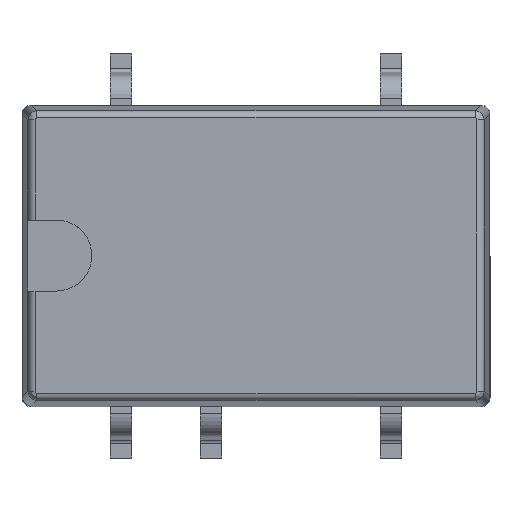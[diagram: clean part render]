
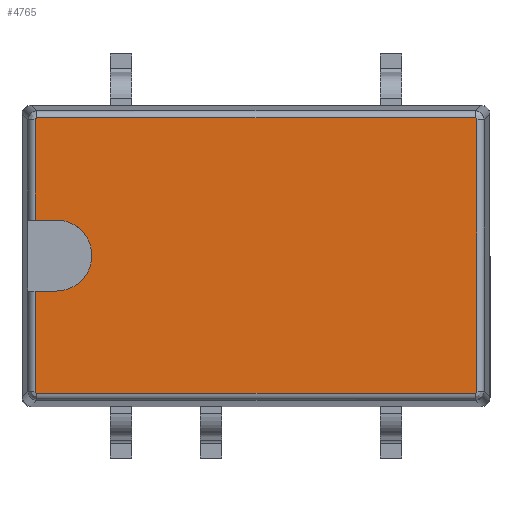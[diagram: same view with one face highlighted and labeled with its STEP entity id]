
A CAD part, top view. The second image highlights one B-rep face of the part: STEP entity #4765.
In plain terms, the highlighted planar face has unit normal (0, 0, 1) as drawn and (0, 1, 0) by its records, which use the part's own axes.
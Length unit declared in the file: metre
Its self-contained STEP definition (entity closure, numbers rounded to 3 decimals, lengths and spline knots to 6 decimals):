
#184 = CARTESIAN_POINT ( 'NONE',  ( -0.006181, 0.00445, 0.003882 ) ) ;
#333 = EDGE_CURVE ( 'NONE', #6880, #6842, #6341, .T. ) ;
#377 = CARTESIAN_POINT ( 'NONE',  ( -0.006231, 0.00445, 0. ) ) ;
#389 = VERTEX_POINT ( 'NONE', #4341 ) ;
#474 = LINE ( 'NONE', #5031, #4975 ) ;
#485 = EDGE_CURVE ( 'NONE', #389, #1462, #2657, .T. ) ;
#563 = EDGE_CURVE ( 'NONE', #5188, #389, #3923, .T. ) ;
#578 = EDGE_CURVE ( 'NONE', #5291, #3061, #6038, .T. ) ;
#677 = EDGE_CURVE ( 'NONE', #1285, #2492, #4439, .T. ) ;
#745 = CIRCLE ( 'NONE', #5731, 0.001 ) ;
#803 = ORIENTED_EDGE ( 'NONE', *, *, #485, .T. ) ;
#866 = CARTESIAN_POINT ( 'NONE',  ( 0.006181, 0.00445, -0.003882 ) ) ;
#995 = ORIENTED_EDGE ( 'NONE', *, *, #1092, .T. ) ;
#1092 = EDGE_CURVE ( 'NONE', #6842, #5188, #5869, .T. ) ;
#1171 = CARTESIAN_POINT ( 'NONE',  ( 0.006231, 0.00445, 0.003861 ) ) ;
#1205 = CARTESIAN_POINT ( 'NONE',  ( -0.006211, 0.00445, 0.003882 ) ) ;
#1247 = VECTOR ( 'NONE', #5038, 1. ) ;
#1285 = VERTEX_POINT ( 'NONE', #6167 ) ;
#1457 = CARTESIAN_POINT ( 'NONE',  ( -0.00563, 0.00445, 0. ) ) ;
#1462 = VERTEX_POINT ( 'NONE', #3609 ) ;
#1580 = EDGE_CURVE ( 'NONE', #1462, #2114, #745, .T. ) ;
#1762 = CARTESIAN_POINT ( 'NONE',  ( -0.006231, 0.00445, 0.003832 ) ) ;
#1770 = EDGE_LOOP ( 'NONE', ( #5494, #803, #5880, #2969, #6943, #3423, #2842, #5659, #6381, #7266, #4805, #995 ) ) ;
#1773 = EDGE_CURVE ( 'NONE', #4299, #5291, #474, .T. ) ;
#1915 = CARTESIAN_POINT ( 'NONE',  ( -0.006231, 0.00445, -0.003861 ) ) ;
#2003 = CARTESIAN_POINT ( 'NONE',  ( 0., 0.00445, 0.003882 ) ) ;
#2114 = VERTEX_POINT ( 'NONE', #4698 ) ;
#2122 = VECTOR ( 'NONE', #7342, 1. ) ;
#2299 = VECTOR ( 'NONE', #2930, 1. ) ;
#2377 = CARTESIAN_POINT ( 'NONE',  ( -0.006231, 0.00445, 0.001 ) ) ;
#2436 = CARTESIAN_POINT ( 'NONE',  ( 0.006209, 0.00445, 0.003882 ) ) ;
#2492 = VERTEX_POINT ( 'NONE', #5806 ) ;
#2657 = LINE ( 'NONE', #3814, #6623 ) ;
#2832 = DIRECTION ( 'NONE',  ( -1., 0., 0. ) ) ;
#2842 = ORIENTED_EDGE ( 'NONE', *, *, #3531, .T. ) ;
#2930 = DIRECTION ( 'NONE',  ( -1., 0., 0. ) ) ;
#2951 = CARTESIAN_POINT ( 'NONE',  ( -0.006231, 0.00445, 0.00386 ) ) ;
#2969 = ORIENTED_EDGE ( 'NONE', *, *, #3001, .T. ) ;
#3001 = EDGE_CURVE ( 'NONE', #2114, #4299, #5109, .T. ) ;
#3061 = VERTEX_POINT ( 'NONE', #184 ) ;
#3251 = PLANE ( 'NONE',  #4427 ) ;
#3298 = VECTOR ( 'NONE', #7120, 1. ) ;
#3423 = ORIENTED_EDGE ( 'NONE', *, *, #578, .T. ) ;
#3437 = CARTESIAN_POINT ( 'NONE',  ( 0.006231, 0.00445, 0.003832 ) ) ;
#3531 = EDGE_CURVE ( 'NONE', #3061, #1285, #5385, .T. ) ;
#3542 = CARTESIAN_POINT ( 'NONE',  ( -0.006231, 0.00445, -0.003832 ) ) ;
#3553 = EDGE_CURVE ( 'NONE', #5431, #6880, #5203, .T. ) ;
#3609 = CARTESIAN_POINT ( 'NONE',  ( -0.00563, 0.00445, -0.001 ) ) ;
#3636 = CARTESIAN_POINT ( 'NONE',  ( 0.006181, 0.00445, -0.003882 ) ) ;
#3773 = CARTESIAN_POINT ( 'NONE',  ( -0.006181, 0.00445, -0.003882 ) ) ;
#3809 = CARTESIAN_POINT ( 'NONE',  ( 0.006231, 0.00445, 0. ) ) ;
#3814 = CARTESIAN_POINT ( 'NONE',  ( 0., 0.00445, -0.001 ) ) ;
#3923 = LINE ( 'NONE', #377, #2122 ) ;
#4198 = CARTESIAN_POINT ( 'NONE',  ( 0.006231, 0.00445, -0.00386 ) ) ;
#4281 = DIRECTION ( 'NONE',  ( 0., -1., 0. ) ) ;
#4299 = VERTEX_POINT ( 'NONE', #2377 ) ;
#4341 = CARTESIAN_POINT ( 'NONE',  ( -0.006231, 0.00445, -0.001 ) ) ;
#4427 = AXIS2_PLACEMENT_3D ( 'NONE', #4484, #5662, #5520 ) ;
#4432 = CARTESIAN_POINT ( 'NONE',  ( -0.006231, 0.00445, 0.003832 ) ) ;
#4439 = B_SPLINE_CURVE_WITH_KNOTS ( 'NONE', 3,
 ( #5807, #2436, #1171, #3437 ),
 .UNSPECIFIED., .F., .F.,
 ( 4, 4 ),
 ( 0., 1. ),
 .UNSPECIFIED. ) ;
#4484 = CARTESIAN_POINT ( 'NONE',  ( 0., 0.00445, 0. ) ) ;
#4632 = CARTESIAN_POINT ( 'NONE',  ( -0.006209, 0.00445, -0.003882 ) ) ;
#4671 = CARTESIAN_POINT ( 'NONE',  ( -0.006181, 0.00445, 0.003882 ) ) ;
#4698 = CARTESIAN_POINT ( 'NONE',  ( -0.00563, 0.00445, 0.001 ) ) ;
#4708 = CARTESIAN_POINT ( 'NONE',  ( -0.006231, 0.00445, -0.003832 ) ) ;
#4729 = CARTESIAN_POINT ( 'NONE',  ( 0., 0.00445, -0.003882 ) ) ;
#4746 = CARTESIAN_POINT ( 'NONE',  ( -0.006181, 0.00445, -0.003882 ) ) ;
#4765 = ADVANCED_FACE ( 'NONE', ( #4929 ), #3251, .T. ) ;
#4805 = ORIENTED_EDGE ( 'NONE', *, *, #333, .T. ) ;
#4929 = FACE_OUTER_BOUND ( 'NONE', #1770, .T. ) ;
#4949 = DIRECTION ( 'NONE',  ( 0., 0., 1. ) ) ;
#4975 = VECTOR ( 'NONE', #6620, 1. ) ;
#5031 = CARTESIAN_POINT ( 'NONE',  ( -0.006231, 0.00445, 0. ) ) ;
#5038 = DIRECTION ( 'NONE',  ( 0., 0., -1. ) ) ;
#5109 = LINE ( 'NONE', #5256, #5197 ) ;
#5188 = VERTEX_POINT ( 'NONE', #3542 ) ;
#5197 = VECTOR ( 'NONE', #2832, 1. ) ;
#5203 = B_SPLINE_CURVE_WITH_KNOTS ( 'NONE', 3,
 ( #6528, #4198, #7158, #3636 ),
 .UNSPECIFIED., .F., .F.,
 ( 4, 4 ),
 ( 0., 1. ),
 .UNSPECIFIED. ) ;
#5256 = CARTESIAN_POINT ( 'NONE',  ( 0., 0.00445, 0.001 ) ) ;
#5291 = VERTEX_POINT ( 'NONE', #4432 ) ;
#5385 = LINE ( 'NONE', #2003, #3298 ) ;
#5431 = VERTEX_POINT ( 'NONE', #5718 ) ;
#5494 = ORIENTED_EDGE ( 'NONE', *, *, #563, .T. ) ;
#5520 = DIRECTION ( 'NONE',  ( 0., 0., 1. ) ) ;
#5659 = ORIENTED_EDGE ( 'NONE', *, *, #677, .T. ) ;
#5662 = DIRECTION ( 'NONE',  ( 0., 1., 0. ) ) ;
#5718 = CARTESIAN_POINT ( 'NONE',  ( 0.006231, 0.00445, -0.003832 ) ) ;
#5731 = AXIS2_PLACEMENT_3D ( 'NONE', #1457, #4281, #4949 ) ;
#5806 = CARTESIAN_POINT ( 'NONE',  ( 0.006231, 0.00445, 0.003832 ) ) ;
#5807 = CARTESIAN_POINT ( 'NONE',  ( 0.006181, 0.00445, 0.003882 ) ) ;
#5869 = B_SPLINE_CURVE_WITH_KNOTS ( 'NONE', 3,
 ( #4746, #4632, #1915, #4708 ),
 .UNSPECIFIED., .F., .F.,
 ( 4, 4 ),
 ( 0., 1. ),
 .UNSPECIFIED. ) ;
#5880 = ORIENTED_EDGE ( 'NONE', *, *, #1580, .T. ) ;
#6038 = B_SPLINE_CURVE_WITH_KNOTS ( 'NONE', 3,
 ( #1762, #2951, #1205, #4671 ),
 .UNSPECIFIED., .F., .F.,
 ( 4, 4 ),
 ( 0., 1. ),
 .UNSPECIFIED. ) ;
#6167 = CARTESIAN_POINT ( 'NONE',  ( 0.006181, 0.00445, 0.003882 ) ) ;
#6341 = LINE ( 'NONE', #4729, #2299 ) ;
#6381 = ORIENTED_EDGE ( 'NONE', *, *, #7071, .T. ) ;
#6528 = CARTESIAN_POINT ( 'NONE',  ( 0.006231, 0.00445, -0.003832 ) ) ;
#6620 = DIRECTION ( 'NONE',  ( 0., 0., 1. ) ) ;
#6623 = VECTOR ( 'NONE', #7268, 1. ) ;
#6842 = VERTEX_POINT ( 'NONE', #3773 ) ;
#6880 = VERTEX_POINT ( 'NONE', #866 ) ;
#6943 = ORIENTED_EDGE ( 'NONE', *, *, #1773, .T. ) ;
#7071 = EDGE_CURVE ( 'NONE', #2492, #5431, #7337, .T. ) ;
#7120 = DIRECTION ( 'NONE',  ( 1., 0., 0. ) ) ;
#7158 = CARTESIAN_POINT ( 'NONE',  ( 0.006211, 0.00445, -0.003882 ) ) ;
#7266 = ORIENTED_EDGE ( 'NONE', *, *, #3553, .T. ) ;
#7268 = DIRECTION ( 'NONE',  ( 1., 0., 0. ) ) ;
#7337 = LINE ( 'NONE', #3809, #1247 ) ;
#7342 = DIRECTION ( 'NONE',  ( 0., 0., 1. ) ) ;
